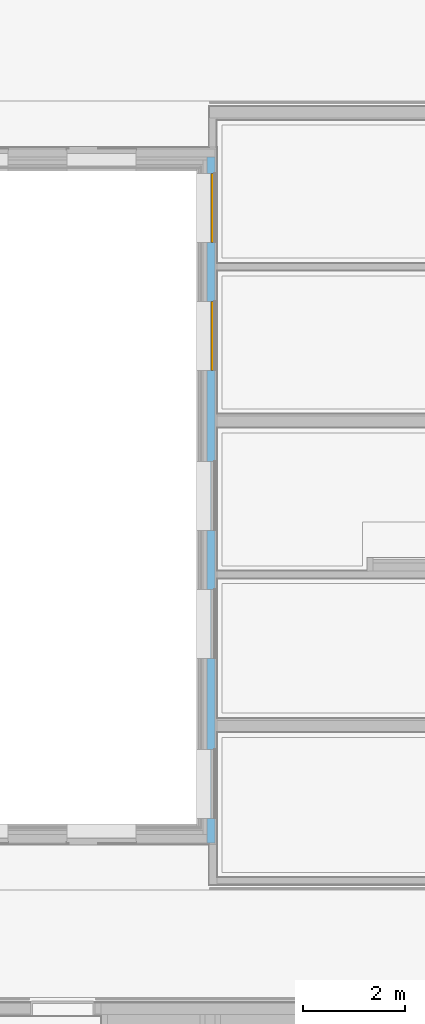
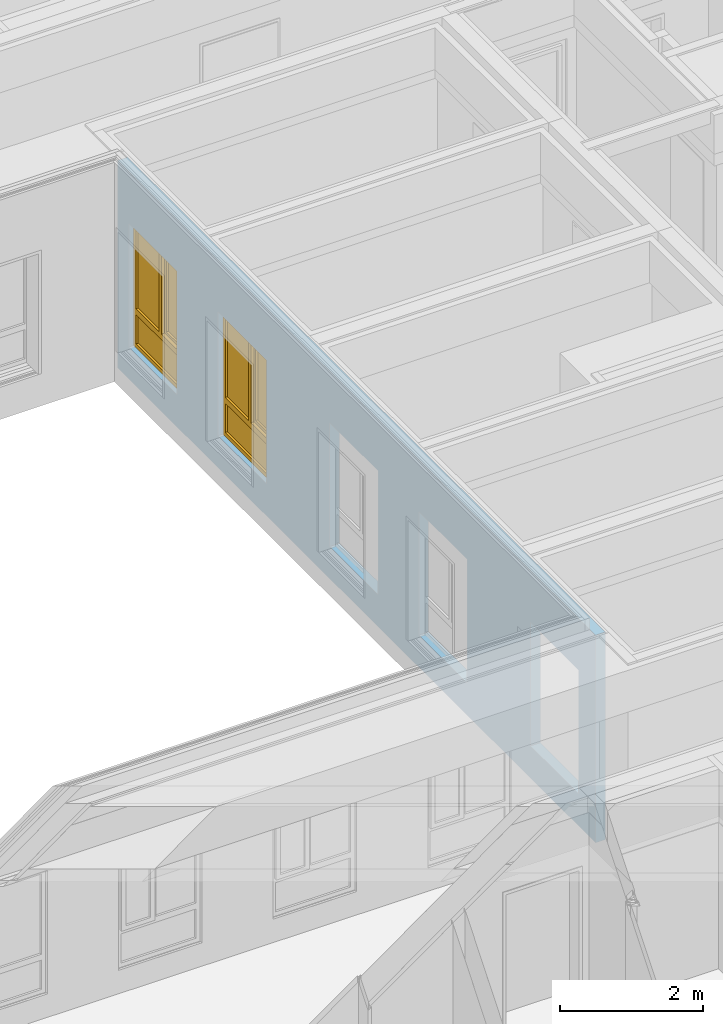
# One storey, part 127 of 222: 2 windows, 5 openings, plus 1 element that does not belong to this part.
"""IFC4 building model written with IfcOpenShell, lengths in metres."""

from ifc_helpers import new_model, entity, si_unit, converted_unit, derived_unit, frame, frame_2d, origin, origin_with_axes, place, context, subcontext, project, spatial, polyline, rectangle, outline, extrude, closed_shell, open_shell, surface_model, source, transform, mapped, material, element, fill, save


model = new_model("IFC4")

# Units and contexts
model_context = context("Model", 3, precision=1e-05, world=origin())
body_context = subcontext(model_context, "Body", "Model", "MODEL_VIEW")
ifc_project = project(units=[si_unit("LENGTHUNIT", "METRE"), si_unit("AREAUNIT", "SQUARE_METRE"), si_unit("VOLUMEUNIT", "CUBIC_METRE"), si_unit("MASSUNIT", "GRAM", prefix="KILO"), converted_unit("PLANEANGLEUNIT", "DEGREE", entity("IfcPlaneAngleMeasure", 0.0174532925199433), si_unit("PLANEANGLEUNIT", "RADIAN"), dimensions=[0, 0, 0, 0, 0, 0, 0]), derived_unit("THERMALTRANSMITTANCEUNIT", [(si_unit("POWERUNIT", "WATT"), 1), (si_unit("THERMODYNAMICTEMPERATUREUNIT", "KELVIN"), -1), (si_unit("LENGTHUNIT", "METRE"), -2)]), derived_unit("VOLUMETRICFLOWRATEUNIT", [(si_unit("LENGTHUNIT", "METRE"), 3), (converted_unit("TIMEUNIT", "hour", entity("IfcTimeMeasure", 3600.0), si_unit("TIMEUNIT", "SECOND"), dimensions=[0, 0, 1, 0, 0, 0, 0]), -1), (si_unit("LENGTHUNIT", "METRE"), -1)])], contexts=[model_context])

# Site, building, storey
site_placement = place(None, origin())
site = spatial("IfcSite", under=ifc_project, at=site_placement, Name="Psychiatrie Neubau Wunstorf", CompositionType="ELEMENT")
building_placement = place(site_placement, origin())
building = spatial("IfcBuilding", under=site, at=building_placement, Name="Neubau H2 Stationsgebäude", CompositionType="ELEMENT")
storey_placement = place(building_placement, frame((0.0, 0.0, 3.6)))
storey = spatial("IfcBuildingStorey", under=building, at=storey_placement, Name="H2 Ebene +1", CompositionType="ELEMENT", Elevation=3.6)

# Wall, openings, windows
ifc_material = material(Name="WA-DL")
wall_placement = place(storey_placement, frame((90.325, 8.45000000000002, 0.0), z_axis=(0.0, 0.0, 1.0), x_axis=(0.0, 1.0, 0.0)))
wall = element("IfcWall", 1, at=wall_placement, inside=storey, material=ifc_material, context=body_context, shape_type="SweptSolid", body=[
    extrude(rectangle(XDim=13.390001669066, YDim=0.16, at=frame_2d((6.69500083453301, 0.08), x_axis=(1.0, 0.0))), origin_with_axes(), (0.0, 0.0, 1.0), 3.55),
])
opening_1_placement = place(wall_placement, frame((1.82573687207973, 0.16, 0.55), z_axis=(0.0, -1.0, 0.0), x_axis=(0.0, 0.0, 1.0)))
element("IfcOpeningElement", 2, at=opening_1_placement, cuts=wall, Name="Fensteröffnung", ObjectType="Opening", context=body_context, shape_type="SweptSolid", body=[
    extrude(outline(polyline([(2.115, 1.35), (2.115, 0.0), (0.0, 0.0), (0.0, 1.35), (2.115, 1.35)])), origin_with_axes(), (0.0, 0.0, 1.0), 0.16),
])
opening_2_placement = place(wall_placement, frame((4.95001199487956, 0.159999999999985, 0.55), z_axis=(0.0, -1.0, 0.0), x_axis=(0.0, 0.0, 1.0)))
element("IfcOpeningElement", 3, at=opening_2_placement, cuts=wall, Name="Fensteröffnung", ObjectType="Opening", context=body_context, shape_type="SweptSolid", body=[
    extrude(outline(polyline([(2.115, 1.35), (2.115, 0.0), (0.0, 0.0), (0.0, 1.35), (2.115, 1.35)])), origin_with_axes(), (0.0, 0.0, 1.0), 0.16),
])
opening_3_placement = place(wall_placement, frame((7.45001199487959, 0.16, 0.55), z_axis=(0.0, -1.0, 0.0), x_axis=(0.0, 0.0, 1.0)))
element("IfcOpeningElement", 4, at=opening_3_placement, cuts=wall, Name="Fensteröffnung", ObjectType="Opening", context=body_context, shape_type="SweptSolid", body=[
    extrude(outline(polyline([(2.115, 1.35), (2.115, 0.0), (0.0, 0.0), (0.0, 1.35), (2.115, 1.35)])), origin_with_axes(), (0.0, 0.0, 1.0), 0.16),
])
opening_4_placement = place(wall_placement, frame((10.5746294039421, 0.160000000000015, 0.55), z_axis=(0.0, -1.0, 0.0), x_axis=(0.0, 0.0, 1.0)))
opening_4 = element("IfcOpeningElement", 5, at=opening_4_placement, cuts=wall, Name="Fensteröffnung", ObjectType="Opening", context=body_context, shape_type="SweptSolid", body=[
    extrude(outline(polyline([(2.115, 1.35), (2.115, 0.0), (0.0, 0.0), (0.0, 1.35), (2.115, 1.35)])), origin_with_axes(), (0.0, 0.0, 1.0), 0.16),
])
opening_5_placement = place(wall_placement, frame((13.0745718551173, 0.159999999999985, 0.55), z_axis=(0.0, -1.0, 0.0), x_axis=(0.0, 0.0, 1.0)))
opening_5 = element("IfcOpeningElement", 6, at=opening_5_placement, cuts=wall, Name="Fensteröffnung", ObjectType="Opening", context=body_context, shape_type="SweptSolid", body=[
    extrude(outline(polyline([(2.115, 1.35), (2.115, 0.0), (0.0, 0.0), (0.0, 1.35), (2.115, 1.35)])), origin_with_axes(), (0.0, 0.0, 1.0), 0.16),
])
shared_shape_1 = source(origin_with_axes(), body_context, "Body", "SurfaceModel", [
    surface_model("IfcShellBasedSurfaceModel", [(0.0, 0.0, 2.115), (0.0699999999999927, 0.0, 2.115), (0.0699999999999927, 0.0, 0.0), (0.0, 0.0, 0.0), (0.0, 0.0700000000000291, 0.0), (0.0699999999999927, 0.0700000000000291, 0.0), (0.0699999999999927, 0.0700000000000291, 2.115), (0.0, 0.0700000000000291, 2.115)], [closed_shell([[[0, 1, 2, 3]], [[4, 5, 6, 7]], [[3, 4, 7, 0]], [[2, 5, 4, 3]], [[1, 6, 5, 2]], [[0, 7, 6, 1]]], orient=[[False], [False], [False], [False], [False], [False]])]),
    surface_model("IfcShellBasedSurfaceModel", [(1.27999999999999, 0.0, 2.115), (1.34999999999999, 0.0, 2.115), (1.34999999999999, 0.0, 0.0), (1.27999999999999, 0.0, 0.0), (1.27999999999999, 0.0700000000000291, 0.0), (1.34999999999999, 0.0700000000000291, 0.0), (1.34999999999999, 0.0700000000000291, 2.115), (1.27999999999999, 0.0700000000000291, 2.115)], [closed_shell([[[0, 1, 2, 3]], [[4, 5, 6, 7]], [[3, 4, 7, 0]], [[2, 5, 4, 3]], [[1, 6, 5, 2]], [[0, 7, 6, 1]]], orient=[[False], [False], [False], [False], [False], [False]])]),
    surface_model("IfcShellBasedSurfaceModel", [(0.0699999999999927, 0.0, 0.07), (1.27999999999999, 0.0, 0.07), (1.27999999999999, 0.0, 0.0), (0.0699999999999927, 0.0, 0.0), (0.0699999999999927, 0.0700000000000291, 0.0), (1.27999999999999, 0.0700000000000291, 0.0), (1.27999999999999, 0.0700000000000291, 0.07), (0.0699999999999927, 0.0700000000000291, 0.07)], [closed_shell([[[0, 1, 2, 3]], [[4, 5, 6, 7]], [[3, 4, 7, 0]], [[2, 5, 4, 3]], [[1, 6, 5, 2]], [[0, 7, 6, 1]]], orient=[[False], [False], [False], [False], [False], [False]])]),
    surface_model("IfcShellBasedSurfaceModel", [(0.0699999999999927, 0.0, 2.115), (1.27999999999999, 0.0, 2.115), (1.27999999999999, 0.0, 2.045), (0.0699999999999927, 0.0, 2.045), (0.0699999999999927, 0.0700000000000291, 2.045), (1.27999999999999, 0.0700000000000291, 2.045), (1.27999999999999, 0.0700000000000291, 2.115), (0.0699999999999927, 0.0700000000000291, 2.115)], [closed_shell([[[0, 1, 2, 3]], [[4, 5, 6, 7]], [[3, 4, 7, 0]], [[2, 5, 4, 3]], [[1, 6, 5, 2]], [[0, 7, 6, 1]]], orient=[[False], [False], [False], [False], [False], [False]])]),
    surface_model("IfcShellBasedSurfaceModel", [(0.0699999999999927, 0.0, 0.67), (1.27999999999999, 0.0, 0.67), (1.27999999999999, 0.0, 0.57), (0.0699999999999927, 0.0, 0.57), (0.0699999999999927, 0.0700000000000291, 0.57), (1.27999999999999, 0.0700000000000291, 0.57), (1.27999999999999, 0.0700000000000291, 0.67), (0.0699999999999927, 0.0700000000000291, 0.67)], [closed_shell([[[0, 1, 2, 3]], [[4, 5, 6, 7]], [[3, 4, 7, 0]], [[2, 5, 4, 3]], [[1, 6, 5, 2]], [[0, 7, 6, 1]]], orient=[[False], [False], [False], [False], [False], [False]])]),
    surface_model("IfcShellBasedSurfaceModel", [(0.0699999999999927, 0.0350000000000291, 0.07), (0.0699999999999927, 0.0350000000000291, 0.57), (1.27999999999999, 0.0350000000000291, 0.57), (1.27999999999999, 0.0350000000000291, 0.07)], [open_shell([[[0, 1, 2, 3]]], orient=[[False]])]),
    surface_model("IfcShellBasedSurfaceModel", [(0.565699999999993, 0.0, 2.045), (0.635699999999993, 0.0, 2.045), (0.635699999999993, 0.0, 0.67), (0.565699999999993, 0.0, 0.67), (0.565699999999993, 0.0700000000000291, 0.67), (0.635699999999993, 0.0700000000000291, 0.67), (0.635699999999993, 0.0700000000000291, 2.045), (0.565699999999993, 0.0700000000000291, 2.045)], [closed_shell([[[0, 1, 2, 3]], [[4, 5, 6, 7]], [[3, 4, 7, 0]], [[2, 5, 4, 3]], [[1, 6, 5, 2]], [[0, 7, 6, 1]]], orient=[[False], [False], [False], [False], [False], [False]])]),
    surface_model("IfcShellBasedSurfaceModel", [(0.0499999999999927, -0.0499999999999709, 2.065), (0.119999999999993, -0.0499999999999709, 2.065), (0.119999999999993, -0.0499999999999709, 0.65), (0.0499999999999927, -0.0499999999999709, 0.65), (0.0499999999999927, 0.0200000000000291, 0.65), (0.119999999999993, 0.0200000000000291, 0.65), (0.119999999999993, 0.0200000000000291, 2.065), (0.0499999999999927, 0.0200000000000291, 2.065)], [closed_shell([[[0, 1, 2, 3]], [[4, 5, 6, 7]], [[3, 4, 7, 0]], [[2, 5, 4, 3]], [[1, 6, 5, 2]], [[0, 7, 6, 1]]], orient=[[False], [False], [False], [False], [False], [False]])]),
    surface_model("IfcShellBasedSurfaceModel", [(0.515699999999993, -0.0499999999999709, 2.065), (0.585699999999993, -0.0499999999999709, 2.065), (0.585699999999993, -0.0499999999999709, 0.65), (0.515699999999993, -0.0499999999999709, 0.65), (0.515699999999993, 0.0200000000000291, 0.65), (0.585699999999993, 0.0200000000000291, 0.65), (0.585699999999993, 0.0200000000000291, 2.065), (0.515699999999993, 0.0200000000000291, 2.065)], [closed_shell([[[0, 1, 2, 3]], [[4, 5, 6, 7]], [[3, 4, 7, 0]], [[2, 5, 4, 3]], [[1, 6, 5, 2]], [[0, 7, 6, 1]]], orient=[[False], [False], [False], [False], [False], [False]])]),
    surface_model("IfcShellBasedSurfaceModel", [(0.119999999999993, -0.0499999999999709, 0.72), (0.515699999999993, -0.0499999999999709, 0.72), (0.515699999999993, -0.0499999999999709, 0.65), (0.119999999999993, -0.0499999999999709, 0.65), (0.119999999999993, 0.0200000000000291, 0.65), (0.515699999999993, 0.0200000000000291, 0.65), (0.515699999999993, 0.0200000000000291, 0.72), (0.119999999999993, 0.0200000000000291, 0.72)], [closed_shell([[[0, 1, 2, 3]], [[4, 5, 6, 7]], [[3, 4, 7, 0]], [[2, 5, 4, 3]], [[1, 6, 5, 2]], [[0, 7, 6, 1]]], orient=[[False], [False], [False], [False], [False], [False]])]),
    surface_model("IfcShellBasedSurfaceModel", [(0.119999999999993, -0.0499999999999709, 2.065), (0.515699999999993, -0.0499999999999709, 2.065), (0.515699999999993, -0.0499999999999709, 1.995), (0.119999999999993, -0.0499999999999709, 1.995), (0.119999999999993, 0.0200000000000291, 1.995), (0.515699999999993, 0.0200000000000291, 1.995), (0.515699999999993, 0.0200000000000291, 2.065), (0.119999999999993, 0.0200000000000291, 2.065)], [closed_shell([[[0, 1, 2, 3]], [[4, 5, 6, 7]], [[3, 4, 7, 0]], [[2, 5, 4, 3]], [[1, 6, 5, 2]], [[0, 7, 6, 1]]], orient=[[False], [False], [False], [False], [False], [False]])]),
    surface_model("IfcShellBasedSurfaceModel", [(0.635699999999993, 0.0350000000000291, 0.67), (0.635699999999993, 0.0350000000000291, 2.045), (1.27999999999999, 0.0350000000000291, 2.045), (1.27999999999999, 0.0350000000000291, 0.67)], [open_shell([[[0, 1, 2, 3]]], orient=[[False]])]),
    surface_model("IfcShellBasedSurfaceModel", [(0.119999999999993, -0.0149999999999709, 0.72), (0.119999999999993, -0.0149999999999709, 1.995), (0.515699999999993, -0.0149999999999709, 1.995), (0.515699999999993, -0.0149999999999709, 0.72)], [open_shell([[[0, 1, 2, 3]]], orient=[[False]])]),
])
window_1_placement = place(opening_4_placement, frame((0.0, 1.35, 0.146), z_axis=(1.0, 0.0, 0.0), x_axis=(0.0, -1.0, 0.0)))
window_1 = element("IfcWindow", 7, at=window_1_placement, inside=storey, Name="Fenster", OverallHeight=2.115, OverallWidth=1.35, PartitioningType="USERDEFINED", PredefinedType="WINDOW", context=body_context, shape_type="MappedRepresentation", body=[
    mapped(shared_shape_1, transform((0.0, 0.0, 0.0), x_axis=(1.0, 0.0, 0.0), y_axis=(0.0, 1.0, 0.0), z_axis=(0.0, 0.0, 1.0), scale=1.0)),
])
fill(opening_4, window_1)
shared_shape_2 = source(origin_with_axes(), body_context, "Body", "SurfaceModel", [
    surface_model("IfcShellBasedSurfaceModel", [(0.0, 0.0, 2.115), (0.0699999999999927, 0.0, 2.115), (0.0699999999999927, 0.0, 0.0), (0.0, 0.0, 0.0), (0.0, 0.0700000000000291, 0.0), (0.0699999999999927, 0.0700000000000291, 0.0), (0.0699999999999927, 0.0700000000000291, 2.115), (0.0, 0.0700000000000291, 2.115)], [closed_shell([[[0, 1, 2, 3]], [[4, 5, 6, 7]], [[3, 4, 7, 0]], [[2, 5, 4, 3]], [[1, 6, 5, 2]], [[0, 7, 6, 1]]], orient=[[False], [False], [False], [False], [False], [False]])]),
    surface_model("IfcShellBasedSurfaceModel", [(1.27999999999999, 0.0, 2.115), (1.34999999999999, 0.0, 2.115), (1.34999999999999, 0.0, 0.0), (1.27999999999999, 0.0, 0.0), (1.27999999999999, 0.0700000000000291, 0.0), (1.34999999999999, 0.0700000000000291, 0.0), (1.34999999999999, 0.0700000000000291, 2.115), (1.27999999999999, 0.0700000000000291, 2.115)], [closed_shell([[[0, 1, 2, 3]], [[4, 5, 6, 7]], [[3, 4, 7, 0]], [[2, 5, 4, 3]], [[1, 6, 5, 2]], [[0, 7, 6, 1]]], orient=[[False], [False], [False], [False], [False], [False]])]),
    surface_model("IfcShellBasedSurfaceModel", [(0.0699999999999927, 0.0, 0.07), (1.27999999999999, 0.0, 0.07), (1.27999999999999, 0.0, 0.0), (0.0699999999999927, 0.0, 0.0), (0.0699999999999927, 0.0700000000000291, 0.0), (1.27999999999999, 0.0700000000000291, 0.0), (1.27999999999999, 0.0700000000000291, 0.07), (0.0699999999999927, 0.0700000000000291, 0.07)], [closed_shell([[[0, 1, 2, 3]], [[4, 5, 6, 7]], [[3, 4, 7, 0]], [[2, 5, 4, 3]], [[1, 6, 5, 2]], [[0, 7, 6, 1]]], orient=[[False], [False], [False], [False], [False], [False]])]),
    surface_model("IfcShellBasedSurfaceModel", [(0.0699999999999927, 0.0, 2.115), (1.27999999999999, 0.0, 2.115), (1.27999999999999, 0.0, 2.045), (0.0699999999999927, 0.0, 2.045), (0.0699999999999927, 0.0700000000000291, 2.045), (1.27999999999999, 0.0700000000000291, 2.045), (1.27999999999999, 0.0700000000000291, 2.115), (0.0699999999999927, 0.0700000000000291, 2.115)], [closed_shell([[[0, 1, 2, 3]], [[4, 5, 6, 7]], [[3, 4, 7, 0]], [[2, 5, 4, 3]], [[1, 6, 5, 2]], [[0, 7, 6, 1]]], orient=[[False], [False], [False], [False], [False], [False]])]),
    surface_model("IfcShellBasedSurfaceModel", [(0.0699999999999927, 0.0, 0.67), (1.27999999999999, 0.0, 0.67), (1.27999999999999, 0.0, 0.57), (0.0699999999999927, 0.0, 0.57), (0.0699999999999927, 0.0700000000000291, 0.57), (1.27999999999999, 0.0700000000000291, 0.57), (1.27999999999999, 0.0700000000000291, 0.67), (0.0699999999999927, 0.0700000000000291, 0.67)], [closed_shell([[[0, 1, 2, 3]], [[4, 5, 6, 7]], [[3, 4, 7, 0]], [[2, 5, 4, 3]], [[1, 6, 5, 2]], [[0, 7, 6, 1]]], orient=[[False], [False], [False], [False], [False], [False]])]),
    surface_model("IfcShellBasedSurfaceModel", [(0.0699999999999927, 0.0350000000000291, 0.07), (0.0699999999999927, 0.0350000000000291, 0.57), (1.27999999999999, 0.0350000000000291, 0.57), (1.27999999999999, 0.0350000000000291, 0.07)], [open_shell([[[0, 1, 2, 3]]], orient=[[False]])]),
    surface_model("IfcShellBasedSurfaceModel", [(0.565699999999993, 0.0, 2.045), (0.635699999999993, 0.0, 2.045), (0.635699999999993, 0.0, 0.67), (0.565699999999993, 0.0, 0.67), (0.565699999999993, 0.0700000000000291, 0.67), (0.635699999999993, 0.0700000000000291, 0.67), (0.635699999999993, 0.0700000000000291, 2.045), (0.565699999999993, 0.0700000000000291, 2.045)], [closed_shell([[[0, 1, 2, 3]], [[4, 5, 6, 7]], [[3, 4, 7, 0]], [[2, 5, 4, 3]], [[1, 6, 5, 2]], [[0, 7, 6, 1]]], orient=[[False], [False], [False], [False], [False], [False]])]),
    surface_model("IfcShellBasedSurfaceModel", [(0.0499999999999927, -0.0499999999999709, 2.065), (0.119999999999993, -0.0499999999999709, 2.065), (0.119999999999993, -0.0499999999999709, 0.65), (0.0499999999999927, -0.0499999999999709, 0.65), (0.0499999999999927, 0.0200000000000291, 0.65), (0.119999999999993, 0.0200000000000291, 0.65), (0.119999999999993, 0.0200000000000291, 2.065), (0.0499999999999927, 0.0200000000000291, 2.065)], [closed_shell([[[0, 1, 2, 3]], [[4, 5, 6, 7]], [[3, 4, 7, 0]], [[2, 5, 4, 3]], [[1, 6, 5, 2]], [[0, 7, 6, 1]]], orient=[[False], [False], [False], [False], [False], [False]])]),
    surface_model("IfcShellBasedSurfaceModel", [(0.515699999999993, -0.0499999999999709, 2.065), (0.585699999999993, -0.0499999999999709, 2.065), (0.585699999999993, -0.0499999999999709, 0.65), (0.515699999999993, -0.0499999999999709, 0.65), (0.515699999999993, 0.0200000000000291, 0.65), (0.585699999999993, 0.0200000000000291, 0.65), (0.585699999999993, 0.0200000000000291, 2.065), (0.515699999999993, 0.0200000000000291, 2.065)], [closed_shell([[[0, 1, 2, 3]], [[4, 5, 6, 7]], [[3, 4, 7, 0]], [[2, 5, 4, 3]], [[1, 6, 5, 2]], [[0, 7, 6, 1]]], orient=[[False], [False], [False], [False], [False], [False]])]),
    surface_model("IfcShellBasedSurfaceModel", [(0.119999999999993, -0.0499999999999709, 0.72), (0.515699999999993, -0.0499999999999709, 0.72), (0.515699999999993, -0.0499999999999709, 0.65), (0.119999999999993, -0.0499999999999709, 0.65), (0.119999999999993, 0.0200000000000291, 0.65), (0.515699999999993, 0.0200000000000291, 0.65), (0.515699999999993, 0.0200000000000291, 0.72), (0.119999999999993, 0.0200000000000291, 0.72)], [closed_shell([[[0, 1, 2, 3]], [[4, 5, 6, 7]], [[3, 4, 7, 0]], [[2, 5, 4, 3]], [[1, 6, 5, 2]], [[0, 7, 6, 1]]], orient=[[False], [False], [False], [False], [False], [False]])]),
    surface_model("IfcShellBasedSurfaceModel", [(0.119999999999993, -0.0499999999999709, 2.065), (0.515699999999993, -0.0499999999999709, 2.065), (0.515699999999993, -0.0499999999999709, 1.995), (0.119999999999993, -0.0499999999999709, 1.995), (0.119999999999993, 0.0200000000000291, 1.995), (0.515699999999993, 0.0200000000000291, 1.995), (0.515699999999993, 0.0200000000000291, 2.065), (0.119999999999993, 0.0200000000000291, 2.065)], [closed_shell([[[0, 1, 2, 3]], [[4, 5, 6, 7]], [[3, 4, 7, 0]], [[2, 5, 4, 3]], [[1, 6, 5, 2]], [[0, 7, 6, 1]]], orient=[[False], [False], [False], [False], [False], [False]])]),
    surface_model("IfcShellBasedSurfaceModel", [(0.635699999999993, 0.0350000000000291, 0.67), (0.635699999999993, 0.0350000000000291, 2.045), (1.27999999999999, 0.0350000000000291, 2.045), (1.27999999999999, 0.0350000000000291, 0.67)], [open_shell([[[0, 1, 2, 3]]], orient=[[False]])]),
    surface_model("IfcShellBasedSurfaceModel", [(0.119999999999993, -0.0149999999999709, 0.72), (0.119999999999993, -0.0149999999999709, 1.995), (0.515699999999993, -0.0149999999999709, 1.995), (0.515699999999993, -0.0149999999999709, 0.72)], [open_shell([[[0, 1, 2, 3]]], orient=[[False]])]),
])
window_2_placement = place(opening_5_placement, frame((0.0, 1.35, 0.146), z_axis=(1.0, 0.0, 0.0), x_axis=(0.0, -1.0, 0.0)))
window_2 = element("IfcWindow", 8, at=window_2_placement, inside=storey, Name="Fenster", OverallHeight=2.115, OverallWidth=1.35, PartitioningType="USERDEFINED", PredefinedType="WINDOW", context=body_context, shape_type="MappedRepresentation", body=[
    mapped(shared_shape_2, transform((0.0, 0.0, 0.0), x_axis=(1.0, 0.0, 0.0), y_axis=(0.0, 1.0, 0.0), z_axis=(0.0, 0.0, 1.0), scale=1.0)),
])
fill(opening_5, window_2)

save(model, "model.ifc")
